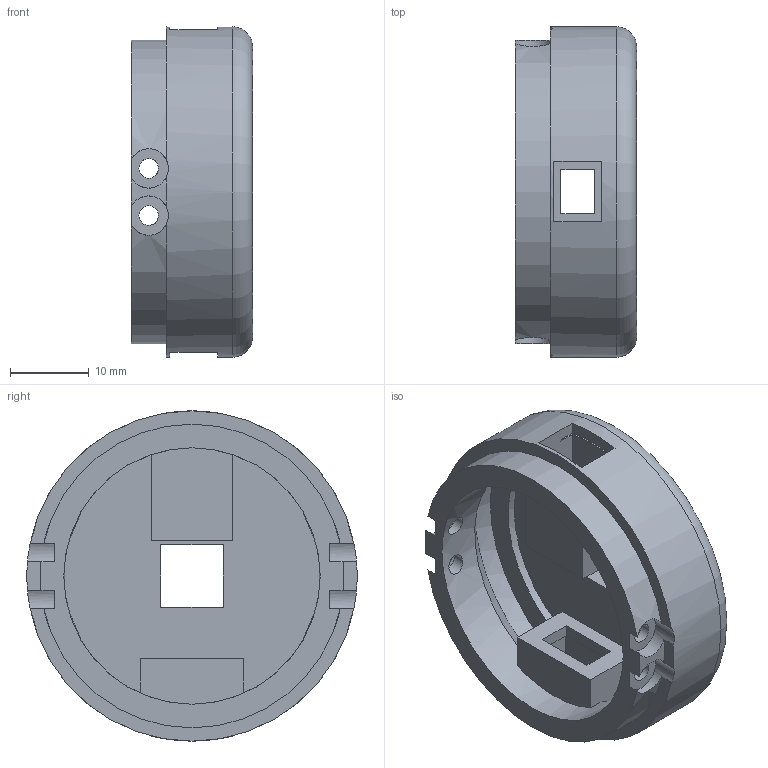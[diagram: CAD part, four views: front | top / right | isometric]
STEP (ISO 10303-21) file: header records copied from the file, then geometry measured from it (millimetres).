
FILE_DESCRIPTION(('Open CASCADE Model'),'2;1');
FILE_NAME('Open CASCADE Shape Model','2026-11-07T04:41:26',('Author'),( 'Open CASCADE'),'Open CASCADE STEP processor 8.0','build123d', 'Unknown');
FILE_SCHEMA(('AUTOMOTIVE_DESIGN { 1 0 10303 214 1 1 1 1 }'));
Length unit declared in the file: millimetre
Products named in the file (1): COMPOUND
Bounding box: 15.4 x 42 x 42 mm (x, y, z)
Volume: 8032.4 mm3; surface area: 7820.4 mm2
Topology: 1 solids, 1 shells, 73 faces, 231 edges, 155 vertices
Faces by surface type: plane 48, cylinder 18, cone 6, torus 1
Full cylindrical faces by diameter (mm): 2.5 x4, 32.6 x2, 39 x1, 42 x1
Entity records: 6919 total; most frequent: CARTESIAN_POINT 2721, DIRECTION 668, ORIENTED_EDGE 462, PCURVE 462, DEFINITIONAL_REPRESENTATION 462, LINE 316, VECTOR 316, EDGE_CURVE 231
